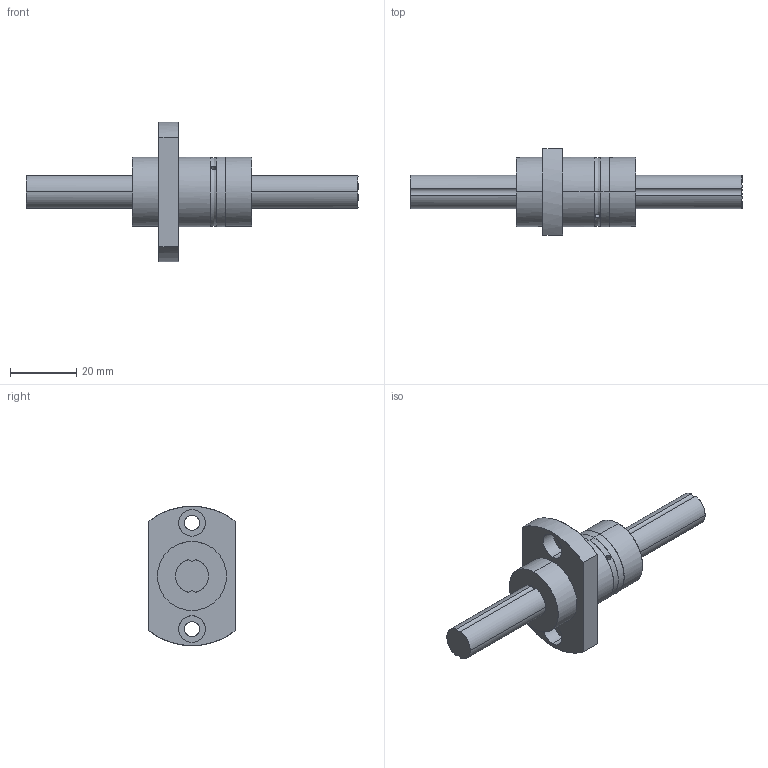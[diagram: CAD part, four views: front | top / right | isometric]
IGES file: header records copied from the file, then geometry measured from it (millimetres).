
Global section: file name: No Iges File Name specified; native system: AutoDesk Inventor R11.0; preprocessor: AutoDesk Inventor Iges Exporter R11.0; author: No Author specified; organization: No Organization specified; date: 20150223.133538; units: millimetre
Bounding box: 100 x 26 x 41.99 mm (x, y, z)
Surface area: 9310.5 mm2 (no closed solid volume)
Topology: 0 solids, 0 shells, 47 faces, 310 edges, 310 vertices
Faces by surface type: bspline 47
